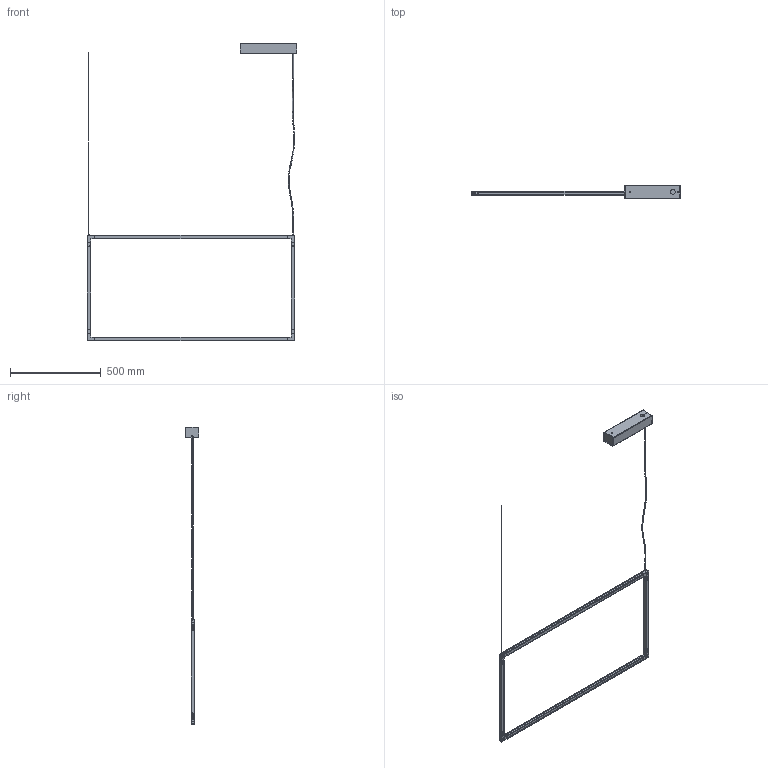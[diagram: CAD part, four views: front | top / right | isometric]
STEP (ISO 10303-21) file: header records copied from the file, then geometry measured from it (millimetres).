
FILE_DESCRIPTION (( 'STEP AP214' ), '1' );
FILE_NAME ('3D_SPIGOLO_PENDANT.STEP', '2014-04-17T08:45:49', ( 'winner' ), ( '' ), 'SwSTEP 2.0', 'SolidWorks 2012', '' );
FILE_SCHEMA (( 'AUTOMOTIVE_DESIGN' ));
Length unit declared in the file: millimetre
Products named in the file (16): rosone inferiore Tru; 082COM000337; 019COM000081; schermo tru_parete; Specchiatura052SPI7001001_2; Specchiatura052SPI7003001; Specchiatura052SPI700300; Specchiatura052SPI700100_2; Specchiaturaattacco superiore; Estruso sospeso corto; profili - spigolo_sospesa; attacco superiore; 052SPI700300; 052SPI700100_2; 3D_SPIGOLO_PENDANT; rosone superiore
Assembly tree (22 placements, depth 2):
  3D_SPIGOLO_PENDANT
    052SPI700100_2  x2
    052SPI700300  x2
    attacco superiore  x2
    profili - spigolo_sospesa  x2
    Estruso sospeso corto  x2
    Specchiaturaattacco superiore  x2
    Specchiatura052SPI700100_2
    Specchiatura052SPI700300
    Specchiatura052SPI7003001
    Specchiatura052SPI7001001_2
    schermo tru_parete  x2
    019COM000081
    082COM000337
    rosone inferiore Tru
    rosone superiore
Bounding box: 1152.22 x 73 x 1638.16 mm (x, y, z)
Volume: 692418.7 mm3; surface area: 779343.2 mm2
Topology: 22 solids, 22 shells, 1900 faces, 4941 edges, 3116 vertices
Faces by surface type: plane 1379, cylinder 409, cone 68, sphere 32, torus 8, bspline 4
Entity records: 40220 total; most frequent: CARTESIAN_POINT 7711, ORIENTED_EDGE 6706, DIRECTION 6423, EDGE_CURVE 3353, VECTOR 2655, LINE 2655, VERTEX_POINT 2122, AXIS2_PLACEMENT_3D 1884
